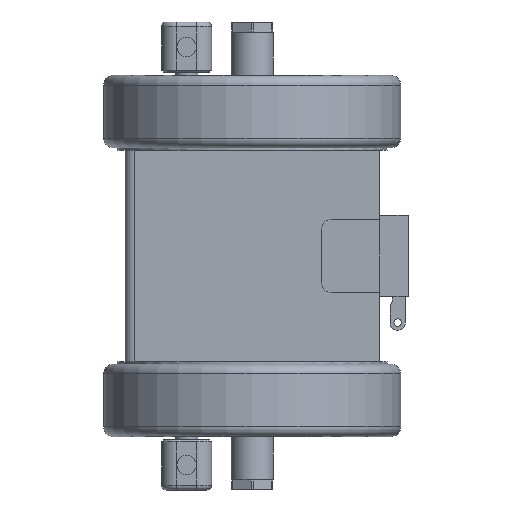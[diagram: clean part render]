
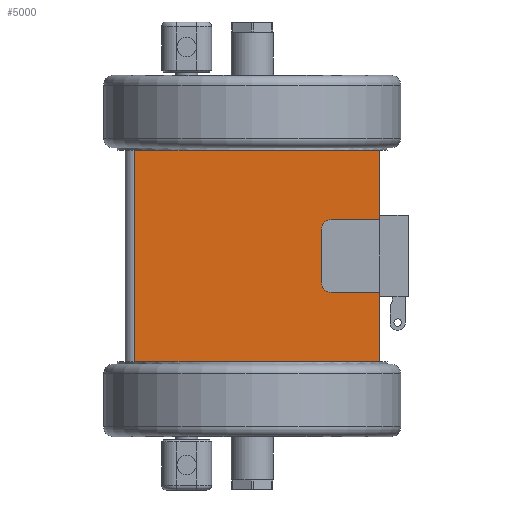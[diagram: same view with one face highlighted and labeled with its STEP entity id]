
A CAD part, left-side view. The second image highlights one B-rep face of the part: STEP entity #5000.
In plain terms, the highlighted planar face has unit normal (-1, 0, 0).
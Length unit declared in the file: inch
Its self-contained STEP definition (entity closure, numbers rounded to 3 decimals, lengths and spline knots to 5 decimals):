
#275 = AXIS2_PLACEMENT_3D ( 'NONE', #38299, #38304, #38305 ) ;
#3592 = AXIS2_PLACEMENT_3D ( 'NONE', #42653, #42654, #42655 ) ;
#3636 = AXIS2_PLACEMENT_3D ( 'NONE', #42108, #42110, #42112 ) ;
#5000 = ADVANCED_FACE ( 'NONE', ( #10929 ), #38298, .F. ) ;
#5916 = VERTEX_POINT ( 'NONE', #34098 ) ;
#5918 = VERTEX_POINT ( 'NONE', #34100 ) ;
#5922 = VERTEX_POINT ( 'NONE', #34104 ) ;
#5930 = VERTEX_POINT ( 'NONE', #34112 ) ;
#5939 = VERTEX_POINT ( 'NONE', #34121 ) ;
#5940 = VERTEX_POINT ( 'NONE', #34122 ) ;
#5941 = VERTEX_POINT ( 'NONE', #34123 ) ;
#5942 = VERTEX_POINT ( 'NONE', #34124 ) ;
#5943 = VERTEX_POINT ( 'NONE', #34125 ) ;
#5944 = VERTEX_POINT ( 'NONE', #34126 ) ;
#5945 = VERTEX_POINT ( 'NONE', #34127 ) ;
#5948 = VERTEX_POINT ( 'NONE', #34130 ) ;
#8724 = CARTESIAN_POINT ( 'NONE',  ( -3.297, -3.297, 1.06 ) ) ;
#8738 = CARTESIAN_POINT ( 'NONE',  ( -3.297, -3.297, 2.747 ) ) ;
#8770 = CARTESIAN_POINT ( 'NONE',  ( -3.297, -3.297, -1.06 ) ) ;
#8773 = CARTESIAN_POINT ( 'NONE',  ( -3.297, -3.297, -2.747 ) ) ;
#9296 = EDGE_CURVE ( 'NONE', #5930, #5918, #11343, .T. ) ;
#9311 = EDGE_CURVE ( 'NONE', #5918, #5922, #11372, .T. ) ;
#9329 = EDGE_CURVE ( 'NONE', #5945, #5948, #11415, .T. ) ;
#9350 = EDGE_CURVE ( 'NONE', #5945, #5930, #11474, .T. ) ;
#9386 = EDGE_CURVE ( 'NONE', #16660, #16663, #11590, .T. ) ;
#9401 = EDGE_CURVE ( 'NONE', #5940, #5939, #11650, .T. ) ;
#9437 = EDGE_CURVE ( 'NONE', #16614, #5943, #35630, .T. ) ;
#9648 = EDGE_CURVE ( 'NONE', #5943, #5916, #36324, .T. ) ;
#9673 = EDGE_CURVE ( 'NONE', #5941, #5942, #36386, .T. ) ;
#9714 = EDGE_CURVE ( 'NONE', #5944, #16628, #36448, .T. ) ;
#10027 = EDGE_CURVE ( 'NONE', #16628, #16614, #36956, .T. ) ;
#10115 = EDGE_CURVE ( 'NONE', #5939, #16660, #37103, .T. ) ;
#10137 = EDGE_CURVE ( 'NONE', #5948, #5944, #41404, .T. ) ;
#10155 = EDGE_CURVE ( 'NONE', #5942, #5940, #41434, .T. ) ;
#10192 = EDGE_CURVE ( 'NONE', #5922, #16663, #41480, .T. ) ;
#10222 = EDGE_CURVE ( 'NONE', #5916, #5941, #41524, .T. ) ;
#10276 = CARTESIAN_POINT ( 'NONE',  ( -3.297, 3.297, 2.747 ) ) ;
#10295 = DIRECTION ( 'NONE',  ( 0., -1., 0. ) ) ;
#10350 = CARTESIAN_POINT ( 'NONE',  ( -3.297, 3.047, -2.747 ) ) ;
#10351 = DIRECTION ( 'NONE',  ( 0., 0., -1. ) ) ;
#10491 = CARTESIAN_POINT ( 'NONE',  ( -3.297, -3.297, 2.647 ) ) ;
#10492 = DIRECTION ( 'NONE',  ( 0., 0., -1. ) ) ;
#10526 = CARTESIAN_POINT ( 'NONE',  ( -3.297, -3.297, -0.943 ) ) ;
#10537 = DIRECTION ( 'NONE',  ( 0., -1., 0. ) ) ;
#10714 = CARTESIAN_POINT ( 'NONE',  ( -3.297, -3.297, 1.06 ) ) ;
#10742 = DIRECTION ( 'NONE',  ( 0., 0., -1. ) ) ;
#10929 = FACE_OUTER_BOUND ( 'NONE', #36069, .T. ) ;
#11343 = LINE ( 'NONE', #13356, #11350 ) ;
#11350 = VECTOR ( 'NONE', #13389, 39.37008 ) ;
#11372 = LINE ( 'NONE', #13454, #11386 ) ;
#11386 = VECTOR ( 'NONE', #13457, 39.37008 ) ;
#11415 = LINE ( 'NONE', #10276, #11421 ) ;
#11421 = VECTOR ( 'NONE', #10295, 39.37008 ) ;
#11474 = LINE ( 'NONE', #10350, #11480 ) ;
#11480 = VECTOR ( 'NONE', #10351, 39.37008 ) ;
#11590 = LINE ( 'NONE', #10491, #11604 ) ;
#11604 = VECTOR ( 'NONE', #10492, 39.37008 ) ;
#11650 = LINE ( 'NONE', #10526, #11654 ) ;
#11654 = VECTOR ( 'NONE', #10537, 39.37008 ) ;
#13356 = CARTESIAN_POINT ( 'NONE',  ( -3.297, 3.297, -2.747 ) ) ;
#13389 = DIRECTION ( 'NONE',  ( 0., -1., 0. ) ) ;
#13454 = CARTESIAN_POINT ( 'NONE',  ( -3.297, 3.297, -2.747 ) ) ;
#13457 = DIRECTION ( 'NONE',  ( 0., -1., 0. ) ) ;
#15182 = ORIENTED_EDGE ( 'NONE', *, *, #10115, .F. ) ;
#15183 = ORIENTED_EDGE ( 'NONE', *, *, #9401, .F. ) ;
#15184 = ORIENTED_EDGE ( 'NONE', *, *, #10155, .F. ) ;
#15185 = ORIENTED_EDGE ( 'NONE', *, *, #9673, .F. ) ;
#15186 = ORIENTED_EDGE ( 'NONE', *, *, #10222, .F. ) ;
#15187 = ORIENTED_EDGE ( 'NONE', *, *, #9648, .F. ) ;
#15188 = ORIENTED_EDGE ( 'NONE', *, *, #9437, .F. ) ;
#15189 = ORIENTED_EDGE ( 'NONE', *, *, #10027, .F. ) ;
#15190 = ORIENTED_EDGE ( 'NONE', *, *, #9714, .F. ) ;
#15191 = ORIENTED_EDGE ( 'NONE', *, *, #10137, .F. ) ;
#15192 = ORIENTED_EDGE ( 'NONE', *, *, #9329, .F. ) ;
#15193 = ORIENTED_EDGE ( 'NONE', *, *, #9350, .T. ) ;
#15194 = ORIENTED_EDGE ( 'NONE', *, *, #9296, .T. ) ;
#15195 = ORIENTED_EDGE ( 'NONE', *, *, #9311, .T. ) ;
#15196 = ORIENTED_EDGE ( 'NONE', *, *, #10192, .T. ) ;
#15197 = ORIENTED_EDGE ( 'NONE', *, *, #9386, .F. ) ;
#16614 = VERTEX_POINT ( 'NONE', #8724 ) ;
#16628 = VERTEX_POINT ( 'NONE', #8738 ) ;
#16660 = VERTEX_POINT ( 'NONE', #8770 ) ;
#16663 = VERTEX_POINT ( 'NONE', #8773 ) ;
#19781 = CARTESIAN_POINT ( 'NONE',  ( -3.297, -3.297, 2.647 ) ) ;
#19782 = DIRECTION ( 'NONE',  ( 0., 0., -1. ) ) ;
#20199 = CARTESIAN_POINT ( 'NONE',  ( -3.297, -3.297, 2.647 ) ) ;
#20200 = DIRECTION ( 'NONE',  ( 0., 0., -1. ) ) ;
#34098 = CARTESIAN_POINT ( 'NONE',  ( -3.297, -2.047, 0.943 ) ) ;
#34100 = CARTESIAN_POINT ( 'NONE',  ( -3.297, 1.16568, -2.747 ) ) ;
#34104 = CARTESIAN_POINT ( 'NONE',  ( -3.297, -1.16568, -2.747 ) ) ;
#34112 = CARTESIAN_POINT ( 'NONE',  ( -3.297, 3.047, -2.747 ) ) ;
#34121 = CARTESIAN_POINT ( 'NONE',  ( -3.297, -3.297, -0.943 ) ) ;
#34122 = CARTESIAN_POINT ( 'NONE',  ( -3.297, -2.047, -0.943 ) ) ;
#34123 = CARTESIAN_POINT ( 'NONE',  ( -3.297, -1.797, 0.693 ) ) ;
#34124 = CARTESIAN_POINT ( 'NONE',  ( -3.297, -1.797, -0.693 ) ) ;
#34125 = CARTESIAN_POINT ( 'NONE',  ( -3.297, -3.297, 0.943 ) ) ;
#34126 = CARTESIAN_POINT ( 'NONE',  ( -3.297, -1.16568, 2.747 ) ) ;
#34127 = CARTESIAN_POINT ( 'NONE',  ( -3.297, 3.047, 2.747 ) ) ;
#34130 = CARTESIAN_POINT ( 'NONE',  ( -3.297, 1.16568, 2.747 ) ) ;
#34791 = DIRECTION ( 'NONE',  ( 0., 1., 0. ) ) ;
#34795 = CARTESIAN_POINT ( 'NONE',  ( -3.297, -3.297, 0.943 ) ) ;
#34896 = CARTESIAN_POINT ( 'NONE',  ( -3.297, -1.797, -0.693 ) ) ;
#34898 = DIRECTION ( 'NONE',  ( 0., 0., -1. ) ) ;
#35047 = CARTESIAN_POINT ( 'NONE',  ( -3.297, 3.297, 2.747 ) ) ;
#35086 = DIRECTION ( 'NONE',  ( 0., -1., 0. ) ) ;
#35630 = LINE ( 'NONE', #10714, #35634 ) ;
#35634 = VECTOR ( 'NONE', #10742, 39.37008 ) ;
#36069 = EDGE_LOOP ( 'NONE', ( #15182, #15183, #15184, #15185, #15186, #15187, #15188, #15189, #15190, #15191, #15192, #15193, #15194, #15195, #15196, #15197 ) ) ;
#36324 = LINE ( 'NONE', #34795, #36336 ) ;
#36336 = VECTOR ( 'NONE', #34791, 39.37008 ) ;
#36386 = LINE ( 'NONE', #34896, #36389 ) ;
#36389 = VECTOR ( 'NONE', #34898, 39.37008 ) ;
#36448 = LINE ( 'NONE', #35047, #36453 ) ;
#36453 = VECTOR ( 'NONE', #35086, 39.37008 ) ;
#36956 = LINE ( 'NONE', #19781, #36965 ) ;
#36965 = VECTOR ( 'NONE', #19782, 39.37008 ) ;
#37103 = LINE ( 'NONE', #20199, #37106 ) ;
#37106 = VECTOR ( 'NONE', #20200, 39.37008 ) ;
#38298 = PLANE ( 'NONE',  #275 ) ;
#38299 = CARTESIAN_POINT ( 'NONE',  ( -3.297, 3.297, 2.647 ) ) ;
#38304 = DIRECTION ( 'NONE',  ( 1., 0., 0. ) ) ;
#38305 = DIRECTION ( 'NONE',  ( 0., 1., 0. ) ) ;
#41404 = LINE ( 'NONE', #41873, #41411 ) ;
#41411 = VECTOR ( 'NONE', #41896, 39.37008 ) ;
#41434 = CIRCLE ( 'NONE', #3636, 0.25 ) ;
#41478 = VECTOR ( 'NONE', #42574, 39.37008 ) ;
#41480 = LINE ( 'NONE', #42573, #41478 ) ;
#41524 = CIRCLE ( 'NONE', #3592, 0.25 ) ;
#41873 = CARTESIAN_POINT ( 'NONE',  ( -3.297, 3.297, 2.747 ) ) ;
#41896 = DIRECTION ( 'NONE',  ( 0., -1., 0. ) ) ;
#42108 = CARTESIAN_POINT ( 'NONE',  ( -3.297, -2.047, -0.693 ) ) ;
#42110 = DIRECTION ( 'NONE',  ( -1., 0., 0. ) ) ;
#42112 = DIRECTION ( 'NONE',  ( 0., 1., 0. ) ) ;
#42573 = CARTESIAN_POINT ( 'NONE',  ( -3.297, 3.297, -2.747 ) ) ;
#42574 = DIRECTION ( 'NONE',  ( 0., -1., 0. ) ) ;
#42653 = CARTESIAN_POINT ( 'NONE',  ( -3.297, -2.047, 0.693 ) ) ;
#42654 = DIRECTION ( 'NONE',  ( -1., 0., 0. ) ) ;
#42655 = DIRECTION ( 'NONE',  ( 0., 1., 0. ) ) ;
